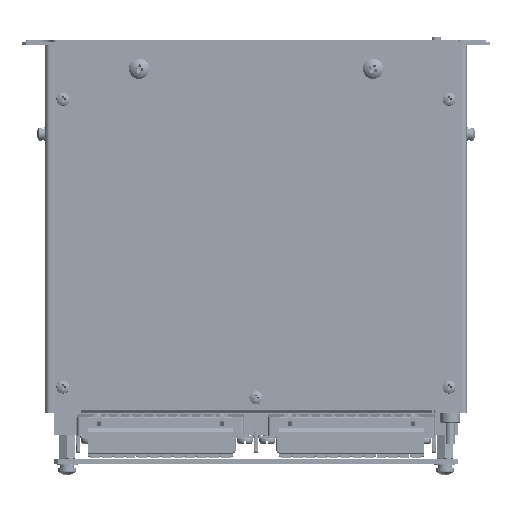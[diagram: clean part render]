
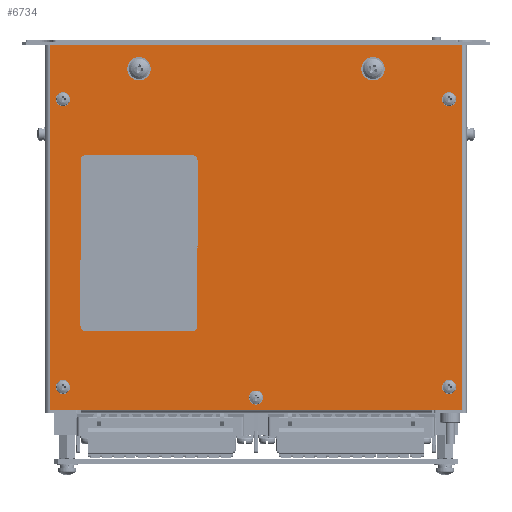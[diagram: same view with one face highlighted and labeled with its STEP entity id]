
A CAD part, left-side view. The second image highlights one B-rep face of the part: STEP entity #6734.
In plain terms, the highlighted planar face has unit normal (-1, 0, 0) as drawn and (0, 0, 1) by its records, which use the part's own axes.
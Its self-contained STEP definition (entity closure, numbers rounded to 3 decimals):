
#6734=ADVANCED_FACE('',(#231754,#231756,#231758,#231760,#231762,#231764,#231766,
#231768),#231770,.T.);
#231754=FACE_BOUND('',#231755,.T.);
#231755=EDGE_LOOP('',(#419906,#419907,#419908,#419909));
#231756=FACE_BOUND('',#231757,.T.);
#231757=EDGE_LOOP('',(#419910));
#231758=FACE_BOUND('',#231759,.T.);
#231759=EDGE_LOOP('',(#419911));
#231760=FACE_BOUND('',#231761,.T.);
#231761=EDGE_LOOP('',(#419912));
#231762=FACE_BOUND('',#231763,.T.);
#231763=EDGE_LOOP('',(#419913));
#231764=FACE_BOUND('',#231765,.T.);
#231765=EDGE_LOOP('',(#419914));
#231766=FACE_BOUND('',#231767,.T.);
#231767=EDGE_LOOP('',(#419915));
#231768=FACE_BOUND('',#231769,.T.);
#231769=EDGE_LOOP('',(#419916));
#231770=PLANE('',#231771);
#231771=AXIS2_PLACEMENT_3D('',#231772,#231773,#231774);
#231772=CARTESIAN_POINT('',(0.,0.,1.));
#231773=DIRECTION('',(0.,0.,1.));
#231774=DIRECTION('',(1.,0.,0.));
#419906=ORIENTED_EDGE('',*,*,#576389,.T.);
#419907=ORIENTED_EDGE('',*,*,#576390,.T.);
#419908=ORIENTED_EDGE('',*,*,#576391,.T.);
#419909=ORIENTED_EDGE('',*,*,#576392,.T.);
#419910=ORIENTED_EDGE('',*,*,#576393,.T.);
#419911=ORIENTED_EDGE('',*,*,#576394,.T.);
#419912=ORIENTED_EDGE('',*,*,#576395,.T.);
#419913=ORIENTED_EDGE('',*,*,#576396,.T.);
#419914=ORIENTED_EDGE('',*,*,#576397,.T.);
#419915=ORIENTED_EDGE('',*,*,#576398,.T.);
#419916=ORIENTED_EDGE('',*,*,#576399,.T.);
#576389=EDGE_CURVE('',#650708,#650709,#650710,.T.);
#576390=EDGE_CURVE('',#650709,#650711,#650712,.T.);
#576391=EDGE_CURVE('',#650711,#650713,#650714,.T.);
#576392=EDGE_CURVE('',#650713,#650708,#650715,.T.);
#576393=EDGE_CURVE('',#650716,#650716,#650717,.F.);
#576394=EDGE_CURVE('',#650718,#650718,#650719,.F.);
#576395=EDGE_CURVE('',#650720,#650720,#650721,.F.);
#576396=EDGE_CURVE('',#650722,#650722,#650723,.F.);
#576397=EDGE_CURVE('',#650724,#650724,#650725,.F.);
#576398=EDGE_CURVE('',#650726,#650726,#650727,.F.);
#576399=EDGE_CURVE('',#650728,#650728,#650729,.F.);
#650708=VERTEX_POINT('',#774637);
#650709=VERTEX_POINT('',#774638);
#650710=LINE('',#774639,#774640);
#650711=VERTEX_POINT('',#774642);
#650712=LINE('',#774643,#774644);
#650713=VERTEX_POINT('',#774646);
#650714=LINE('',#774647,#774648);
#650715=LINE('',#774650,#774651);
#650716=VERTEX_POINT('',#774653);
#650717=CIRCLE('',#774654,1.75);
#650718=VERTEX_POINT('',#774658);
#650719=CIRCLE('',#774659,2.25);
#650720=VERTEX_POINT('',#774663);
#650721=CIRCLE('',#774664,2.25);
#650722=VERTEX_POINT('',#774668);
#650723=CIRCLE('',#774669,1.75);
#650724=VERTEX_POINT('',#774673);
#650725=CIRCLE('',#774674,1.75);
#650726=VERTEX_POINT('',#774678);
#650727=CIRCLE('',#774679,1.75);
#650728=VERTEX_POINT('',#774683);
#650729=CIRCLE('',#774684,1.75);
#774637=CARTESIAN_POINT('',(78.,88.,1.));
#774638=CARTESIAN_POINT('',(-78.,88.,1.));
#774639=CARTESIAN_POINT('',(78.,88.,1.));
#774640=VECTOR('',#774641,1.);
#774641=DIRECTION('',(-1.,0.,0.));
#774642=CARTESIAN_POINT('',(-78.,-88.,1.));
#774643=CARTESIAN_POINT('',(-78.,88.,1.));
#774644=VECTOR('',#774645,1.);
#774645=DIRECTION('',(0.,-1.,0.));
#774646=CARTESIAN_POINT('',(78.,-88.,1.));
#774647=CARTESIAN_POINT('',(-78.,-88.,1.));
#774648=VECTOR('',#774649,1.);
#774649=DIRECTION('',(1.,0.,0.));
#774650=CARTESIAN_POINT('',(78.,-88.,1.));
#774651=VECTOR('',#774652,1.);
#774652=DIRECTION('',(0.,1.,0.));
#774653=CARTESIAN_POINT('',(74.25,0.,1.));
#774654=AXIS2_PLACEMENT_3D('',#774655,#774656,#774657);
#774655=CARTESIAN_POINT('',(72.5,0.,1.));
#774656=DIRECTION('',(0.,0.,1.));
#774657=DIRECTION('',(1.,0.,0.));
#774658=CARTESIAN_POINT('',(-65.75,50.,1.));
#774659=AXIS2_PLACEMENT_3D('',#774660,#774661,#774662);
#774660=CARTESIAN_POINT('',(-68.,50.,1.));
#774661=DIRECTION('',(0.,0.,1.));
#774662=DIRECTION('',(1.,0.,0.));
#774663=CARTESIAN_POINT('',(-65.75,-50.,1.));
#774664=AXIS2_PLACEMENT_3D('',#774665,#774666,#774667);
#774665=CARTESIAN_POINT('',(-68.,-50.,1.));
#774666=DIRECTION('',(0.,0.,1.));
#774667=DIRECTION('',(1.,0.,0.));
#774668=CARTESIAN_POINT('',(-53.25,82.5,1.));
#774669=AXIS2_PLACEMENT_3D('',#774670,#774671,#774672);
#774670=CARTESIAN_POINT('',(-55.,82.5,1.));
#774671=DIRECTION('',(0.,0.,1.));
#774672=DIRECTION('',(1.,0.,0.));
#774673=CARTESIAN_POINT('',(69.75,82.5,1.));
#774674=AXIS2_PLACEMENT_3D('',#774675,#774676,#774677);
#774675=CARTESIAN_POINT('',(68.,82.5,1.));
#774676=DIRECTION('',(0.,0.,1.));
#774677=DIRECTION('',(1.,0.,0.));
#774678=CARTESIAN_POINT('',(-53.25,-82.5,1.));
#774679=AXIS2_PLACEMENT_3D('',#774680,#774681,#774682);
#774680=CARTESIAN_POINT('',(-55.,-82.5,1.));
#774681=DIRECTION('',(0.,0.,1.));
#774682=DIRECTION('',(1.,0.,0.));
#774683=CARTESIAN_POINT('',(69.75,-82.5,1.));
#774684=AXIS2_PLACEMENT_3D('',#774685,#774686,#774687);
#774685=CARTESIAN_POINT('',(68.,-82.5,1.));
#774686=DIRECTION('',(0.,0.,1.));
#774687=DIRECTION('',(1.,0.,0.));
